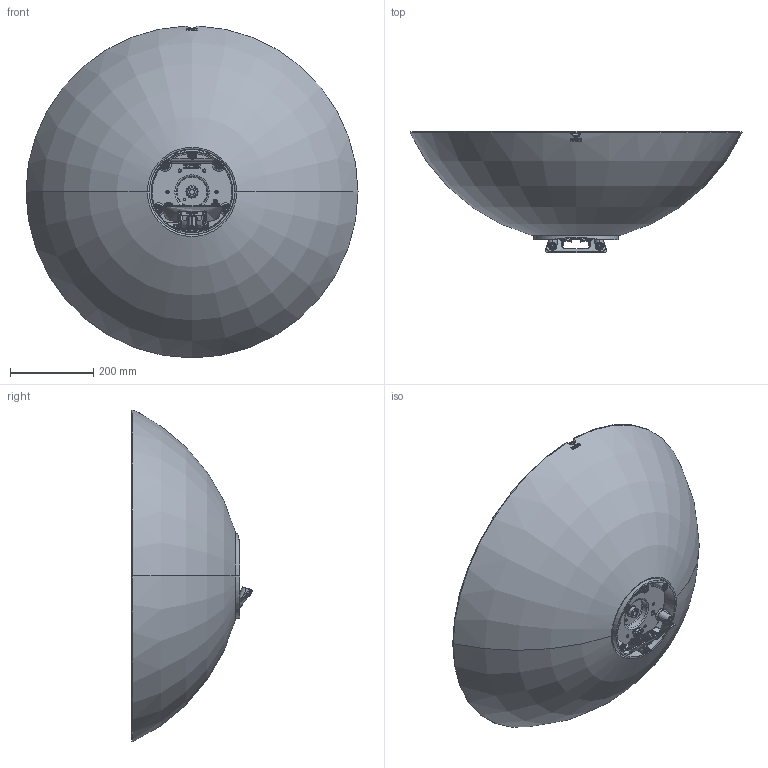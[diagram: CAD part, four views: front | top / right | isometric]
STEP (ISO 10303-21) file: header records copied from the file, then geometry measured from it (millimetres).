
FILE_DESCRIPTION (( 'STEP AP214' ), '1' );
FILE_NAME ('228_STD_OF_PL_3D.STEP', '2021-05-07T14:32:00', ( '' ), ( '' ), 'SwSTEP 2.0', 'SolidWorks 2021', '' );
FILE_SCHEMA (( 'AUTOMOTIVE_DESIGN' ));
Length unit declared in the file: millimetre
Products named in the file (1): 228_STD_OF_PL_3D
Bounding box: 795.7 x 290.49 x 795.51 mm (x, y, z)
Volume: 7223023.6 mm3; surface area: 4495296.4 mm2
Topology: 11 solids, 11 shells, 2660 faces, 6770 edges, 4084 vertices
Faces by surface type: bspline 826, plane 749, cylinder 486, torus 360, cone 180, sphere 59
Entity records: 141685 total; most frequent: CARTESIAN_POINT 54379, ORIENTED_EDGE 13306, DIRECTION 10859, EDGE_CURVE 6653, AXIS2_PLACEMENT_3D 4389, VERTEX_POINT 4080, EDGE_LOOP 2791, UNCERTAINTY_MEASURE_WITH_UNIT 2673
